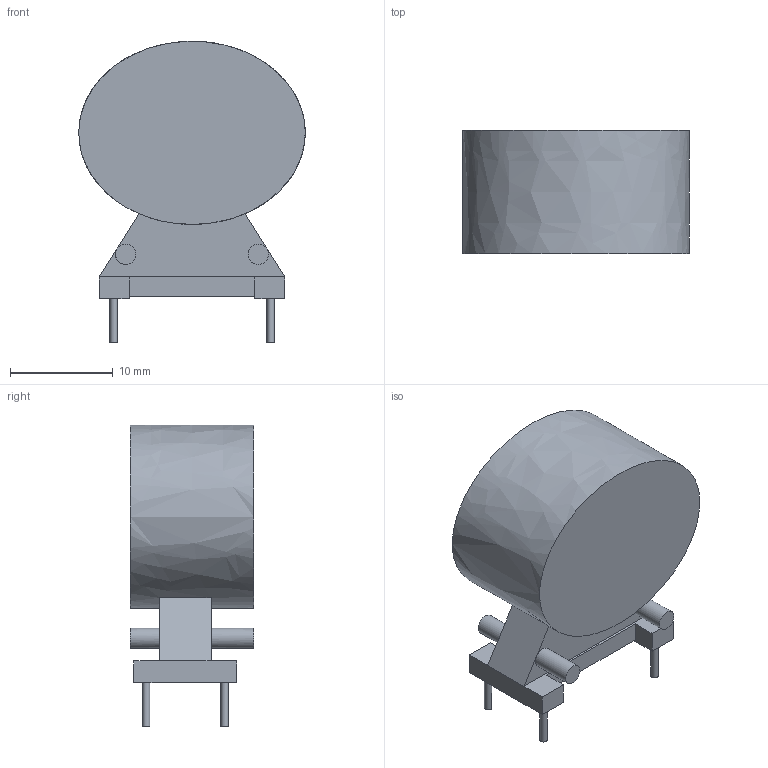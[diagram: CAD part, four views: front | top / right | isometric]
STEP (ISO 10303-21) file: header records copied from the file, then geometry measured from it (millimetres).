
FILE_DESCRIPTION(/* description */ (''),/* implementation_level */ '2;1');
FILE_NAME(/* name */ 'E:\job\working(2020)\CMC construction\6131-X038 4.3mm pin length\6131-X038 3D Model.stp',/* time_stamp */ '2020-07-02T17:14:13+08:00',/* author */ ('cn000333'),/* organization */ (''),/* preprocessor_version */ 'ST-DEVELOPER v17',/* originating_system */ 'Autodesk Inventor 2019',/* authorisation */ '');
FILE_SCHEMA (('AUTOMOTIVE_DESIGN { 1 0 10303 214 3 1 1 }'));
Length unit declared in the file: millimetre
Products named in the file (1): 零件1
Bounding box: 22 x 12 x 29.3 mm (x, y, z)
Volume: 4383.4 mm3; surface area: 1962.5 mm2
Topology: 1 solids, 1 shells, 38 faces, 85 edges, 54 vertices
Faces by surface type: plane 29, cylinder 8, bspline 1
Full cylindrical faces by diameter (mm): 0.71 x4, 1.96 x4
Entity records: 1101 total; most frequent: CARTESIAN_POINT 195, DIRECTION 185, ORIENTED_EDGE 170, EDGE_CURVE 85, AXIS2_PLACEMENT_3D 62, LINE 61, VECTOR 61, VERTEX_POINT 54
